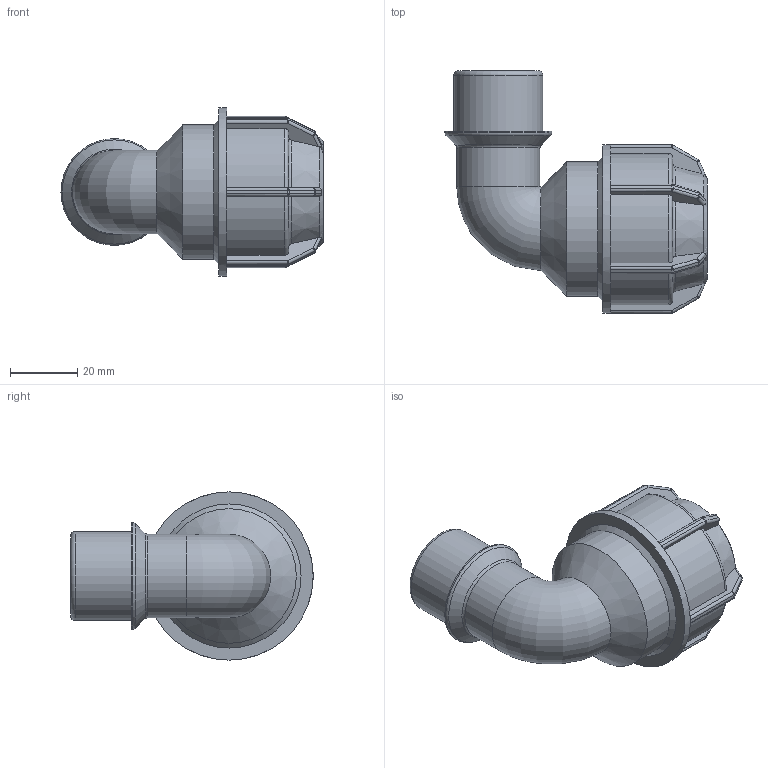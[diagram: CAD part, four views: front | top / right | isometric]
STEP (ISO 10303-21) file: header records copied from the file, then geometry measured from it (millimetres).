
FILE_DESCRIPTION(/* description */ ('PLASSON L.14 90° ELBOW MALE ADAPTOR (SILVER) 25-3/4"'),/* implementation_level */ '2;1');
FILE_NAME(/* name */ 'C:\Dropbox\KIMPROJECTS-Inventor\99-16-3568-Processing\Silver+MF ISRAEL\148500\148500025007.ipt.stp',/* time_stamp */ '2018-04-09T13:05:44+03:00',/* author */ ('KIM'),/* organization */ (''),/* preprocessor_version */ 'ST-DEVELOPER v15.6',/* originating_system */ 'Autodesk Inventor 2015',/* authorisation */ '');
FILE_SCHEMA (('AUTOMOTIVE_DESIGN { 1 0 10303 214 3 1 1 }'));
Length unit declared in the file: millimetre
Products named in the file (1): 148500025007
Bounding box: 77.86 x 72 x 50 mm (x, y, z)
Volume: 49870.5 mm3; surface area: 21729.5 mm2
Topology: 1 solids, 1 shells, 214 faces, 507 edges, 290 vertices
Faces by surface type: plane 98, cylinder 63, sphere 24, torus 19, cone 10
Full cylindrical faces by diameter (mm): 21.153 x2, 24.722 x1, 25 x2, 26.441 x1, 31.729 x1, 40 x1, 50 x1
Entity records: 6122 total; most frequent: CARTESIAN_POINT 1543, DIRECTION 966, ORIENTED_EDGE 924, EDGE_CURVE 462, AXIS2_PLACEMENT_3D 393, VERTEX_POINT 276, EDGE_LOOP 238, FACE_OUTER_BOUND 212
